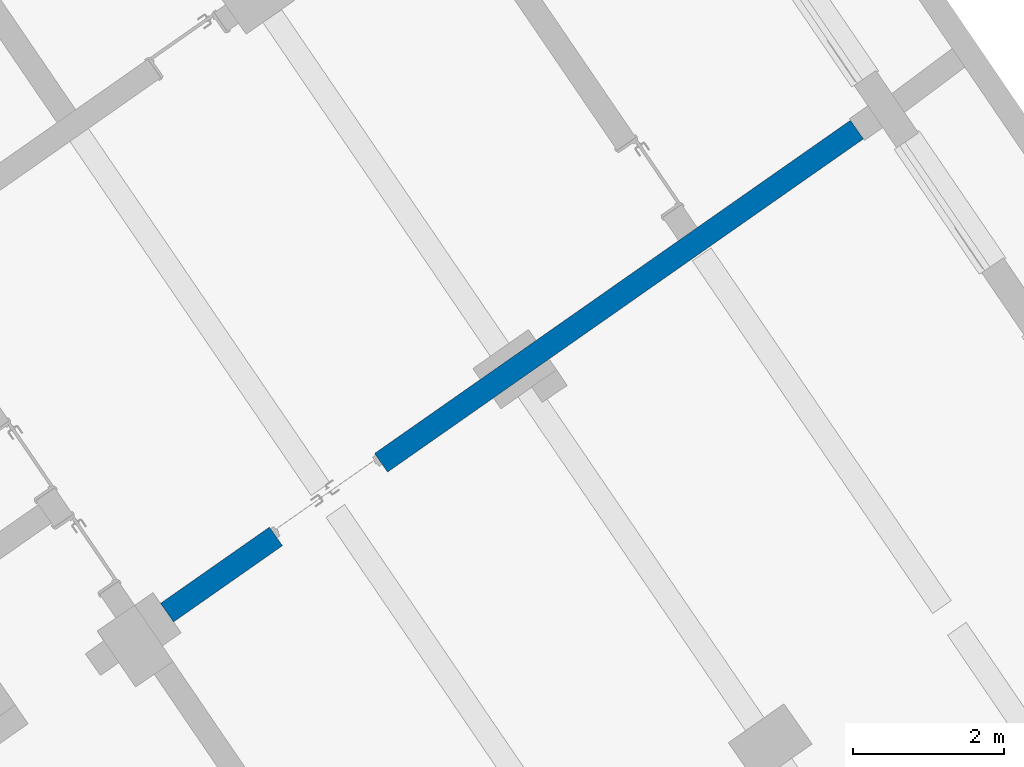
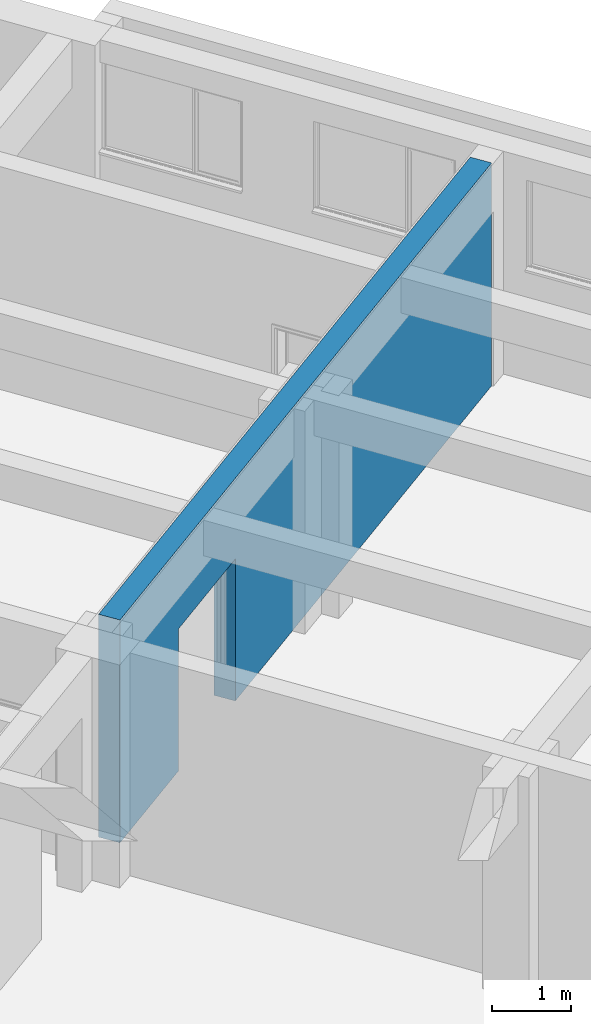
# One storey, part 73 of 112: 1 wall, 1 opening.
"""IFC2X3 building model written with IfcOpenShell, lengths in millimetres."""

from ifc_helpers import new_model, entity, si_unit, converted_unit, derived_unit, direction, frame, frame_2d, origin, place, context, subcontext, project, spatial, rectangle, extrude, material, layer, layer_set, layer_usage, type_object, element, save


model = new_model("IFC2X3")

# Units and contexts
model_context = context("Model", 3, precision=0.01, world=origin(), true_north=direction((6.123031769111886e-17, 1.0)))
body_context = subcontext(model_context, "Body", "Model", "MODEL_VIEW")
ifc_project = project(units=[si_unit("LENGTHUNIT", "METRE", prefix="MILLI"), si_unit("AREAUNIT", "SQUARE_METRE"), si_unit("VOLUMEUNIT", "CUBIC_METRE"), converted_unit("PLANEANGLEUNIT", "DEGREE", entity("IfcRatioMeasure", 0.017453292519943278), si_unit("PLANEANGLEUNIT", "RADIAN"), dimensions=[0, 0, 0, 0, 0, 0, 0]), si_unit("MASSUNIT", "GRAM", prefix="KILO"), derived_unit("MASSDENSITYUNIT", [(si_unit("MASSUNIT", "GRAM", prefix="KILO"), 1), (si_unit("LENGTHUNIT", "METRE"), -3)]), derived_unit("MOMENTOFINERTIAUNIT", [(si_unit("LENGTHUNIT", "METRE"), 4)]), si_unit("TIMEUNIT", "SECOND"), si_unit("FREQUENCYUNIT", "HERTZ"), si_unit("THERMODYNAMICTEMPERATUREUNIT", "DEGREE_CELSIUS"), derived_unit("THERMALTRANSMITTANCEUNIT", [(si_unit("MASSUNIT", "GRAM", prefix="KILO"), 1), (si_unit("THERMODYNAMICTEMPERATUREUNIT", "KELVIN"), -1), (si_unit("TIMEUNIT", "SECOND"), -3)]), derived_unit("THERMALCONDUCTANCEUNIT", [(si_unit("MASSUNIT", "GRAM", prefix="KILO"), 1), (si_unit("LENGTHUNIT", "METRE"), 1), (si_unit("THERMODYNAMICTEMPERATUREUNIT", "KELVIN"), -1), (si_unit("TIMEUNIT", "SECOND"), -3)]), derived_unit("VOLUMETRICFLOWRATEUNIT", [(si_unit("LENGTHUNIT", "METRE"), 3), (si_unit("TIMEUNIT", "SECOND"), -1)]), derived_unit("MASSFLOWRATEUNIT", [(si_unit("MASSUNIT", "GRAM", prefix="KILO"), 1), (si_unit("TIMEUNIT", "SECOND"), -1)]), derived_unit("ROTATIONALFREQUENCYUNIT", [(si_unit("TIMEUNIT", "SECOND"), -1)]), si_unit("ELECTRICCURRENTUNIT", "AMPERE"), si_unit("ELECTRICVOLTAGEUNIT", "VOLT"), si_unit("POWERUNIT", "WATT"), converted_unit("FORCEUNIT", "KIP", entity("IfcRatioMeasure", 2.088543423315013e-05), si_unit("FORCEUNIT", "NEWTON"), dimensions=[1, 1, -2, 0, 0, 0, 0]), si_unit("ILLUMINANCEUNIT", "LUX"), si_unit("LUMINOUSFLUXUNIT", "LUMEN"), si_unit("LUMINOUSINTENSITYUNIT", "CANDELA"), derived_unit("USERDEFINED", [(si_unit("MASSUNIT", "GRAM", prefix="KILO"), -1), (si_unit("LENGTHUNIT", "METRE"), -2), (si_unit("TIMEUNIT", "SECOND"), 3), (si_unit("LUMINOUSFLUXUNIT", "LUMEN"), 1)]), derived_unit("USERDEFINED", [(si_unit("MASSUNIT", "GRAM", prefix="KILO"), 1), (si_unit("LENGTHUNIT", "METRE"), 3), (si_unit("TIMEUNIT", "SECOND"), -3), (si_unit("ELECTRICCURRENTUNIT", "AMPERE"), -2)]), derived_unit("USERDEFINED", [(si_unit("LENGTHUNIT", "METRE"), 2), (si_unit("TIMEUNIT", "SECOND"), -2)]), derived_unit("SOUNDPOWERUNIT", [(si_unit("MASSUNIT", "GRAM", prefix="KILO"), 1), (si_unit("LENGTHUNIT", "METRE"), 2), (si_unit("TIMEUNIT", "SECOND"), -3)]), derived_unit("SOUNDPRESSUREUNIT", [(si_unit("MASSUNIT", "GRAM", prefix="KILO"), 1), (si_unit("LENGTHUNIT", "METRE"), -1), (si_unit("TIMEUNIT", "SECOND"), -2)]), derived_unit("LINEARVELOCITYUNIT", [(si_unit("LENGTHUNIT", "METRE"), 1), (si_unit("TIMEUNIT", "SECOND"), -1)]), si_unit("PRESSUREUNIT", "PASCAL"), derived_unit("USERDEFINED", [(si_unit("LENGTHUNIT", "METRE"), -2), (si_unit("MASSUNIT", "GRAM", prefix="KILO"), 1), (si_unit("TIMEUNIT", "SECOND"), -2)]), derived_unit("LINEARFORCEUNIT", [(si_unit("MASSUNIT", "GRAM", prefix="KILO"), 1), (si_unit("LENGTHUNIT", "METRE"), 1), (si_unit("TIMEUNIT", "SECOND"), -2), (si_unit("LENGTHUNIT", "METRE"), -1)]), derived_unit("PLANARFORCEUNIT", [(si_unit("MASSUNIT", "GRAM", prefix="KILO"), 1), (si_unit("LENGTHUNIT", "METRE"), 1), (si_unit("TIMEUNIT", "SECOND"), -2), (si_unit("LENGTHUNIT", "METRE"), -2)]), derived_unit("SPECIFICHEATCAPACITYUNIT", [(si_unit("LENGTHUNIT", "METRE"), 2), (si_unit("TIMEUNIT", "SECOND"), -2), (si_unit("THERMODYNAMICTEMPERATUREUNIT", "KELVIN"), -1)]), derived_unit("VAPORPERMEABILITYUNIT", [(si_unit("TIMEUNIT", "SECOND"), 1), (si_unit("LENGTHUNIT", "METRE"), -1)]), derived_unit("DYNAMICVISCOSITYUNIT", [(si_unit("MASSUNIT", "GRAM", prefix="KILO"), 1), (si_unit("LENGTHUNIT", "METRE"), -1), (si_unit("TIMEUNIT", "SECOND"), -1)]), derived_unit("THERMALEXPANSIONCOEFFICIENTUNIT", [(si_unit("THERMODYNAMICTEMPERATUREUNIT", "KELVIN"), -1)])], contexts=[model_context])

# Site, building, storey
site_placement = place(None, frame((0.0, 0.0, 0.0), z_axis=(0.0, 0.0, 1.0), x_axis=(0.8191520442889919, 0.5735764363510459, 0.0)))
site = spatial("IfcSite", under=ifc_project, at=site_placement, Name="Default", CompositionType="ELEMENT")
building_placement = place(site_placement, origin())
building = spatial("IfcBuilding", under=site, at=building_placement, CompositionType="ELEMENT")
storey_placement = place(building_placement, frame((0.0, 0.0, -3600.0)))
storey = spatial("IfcBuildingStorey", under=building, at=storey_placement, Name="0.UG -3.60", CompositionType="ELEMENT", Elevation=-3600.0000000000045)

# Wall, opening
ifc_material = material(Name="Analytical Wall Surface_CJC")
ifc_layer = layer(ifc_material, 300.0)
ifc_layer_set = layer_set([ifc_layer], Name="Basic Wall:Wand_Innen_30")
ifc_layer_usage = layer_usage(ifc_layer_set, "AXIS2", "NEGATIVE", 150.0)
wall_type = type_object("IfcWallType", Name="Basic Wall:Wand_Innen_30", PredefinedType="STANDARD", material=ifc_layer_set)
wall_placement = place(storey_placement, frame((-216009.28261540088, 157996.35891435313, 0.0)))
wall = element("IfcWallStandardCase", 1, at=wall_placement, inside=storey, type_object=wall_type, material=ifc_layer_usage, Name="Basic Wall:Wand_Innen_30", ObjectType="Basic Wall:Wand_Innen_30", context=body_context, shape_type="SweptSolid", body=[
    extrude(rectangle(XDim=11152.84347571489, YDim=300.0000000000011, at=frame_2d((5576.421737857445, -2.4584778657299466e-12), x_axis=(1.0, 0.0))), origin(), (0.0, 0.0, 1.0), 3450.0),
])
opening_placement = place(wall_placement, frame((1760.0, -150.0, 0.0)))
element("IfcOpeningElement", 2, at=opening_placement, cuts=wall, Name="M_Door-Passage-Double-Flush:160x210:1", ObjectType="Opening", context=body_context, shape_type="SweptSolid", body=[
    extrude(rectangle(XDim=2200.0, YDim=1699.9999999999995, at=frame_2d((1100.0, 849.9999999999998), x_axis=(1.0, 0.0))), frame((0.0, 0.0, 0.0), z_axis=(0.0, 1.0, 0.0), x_axis=(0.0, 0.0, 1.0)), (0.0, 0.0, 1.0), 300.0),
])

save(model, "model.ifc")
